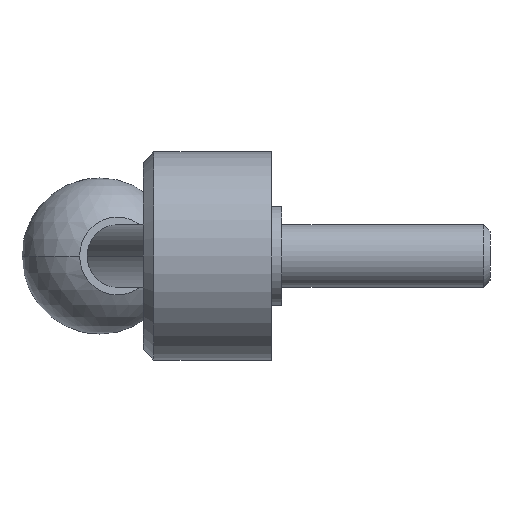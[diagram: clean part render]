
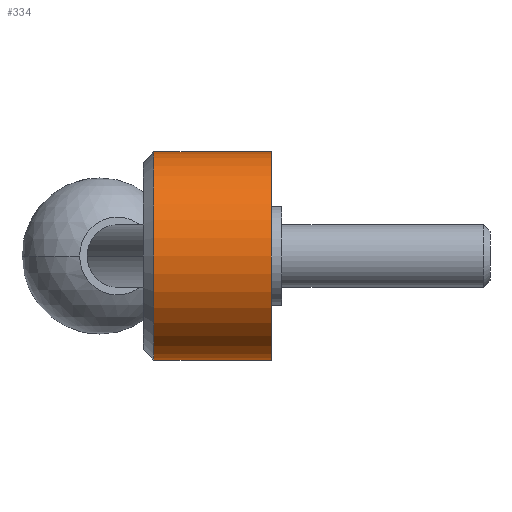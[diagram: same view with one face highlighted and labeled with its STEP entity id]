
A CAD part, left-side view. The second image highlights one B-rep face of the part: STEP entity #334.
In plain terms, the highlighted cylindrical face has radius 20 mm (diameter 40 mm), a partial arc.
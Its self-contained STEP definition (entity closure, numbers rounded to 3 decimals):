
#28 = DIRECTION ( 'NONE',  ( 0., -1., 0. ) ) ;
#94 = EDGE_LOOP ( 'NONE', ( #522, #509, #419, #823 ) ) ;
#99 = LINE ( 'NONE', #369, #339 ) ;
#147 = DIRECTION ( 'NONE',  ( 0., -1., 0. ) ) ;
#154 = CARTESIAN_POINT ( 'NONE',  ( 0., 0., 20. ) ) ;
#160 = CARTESIAN_POINT ( 'NONE',  ( 0., 0., -20. ) ) ;
#181 = DIRECTION ( 'NONE',  ( 0., 0., -1. ) ) ;
#228 = DIRECTION ( 'NONE',  ( 0., -1., 0. ) ) ;
#233 = CARTESIAN_POINT ( 'NONE',  ( 0., 0., 0. ) ) ;
#251 = EDGE_CURVE ( 'NONE', #675, #604, #848, .T. ) ;
#290 = CARTESIAN_POINT ( 'NONE',  ( 0., 22.6, 20. ) ) ;
#317 = VERTEX_POINT ( 'NONE', #843 ) ;
#334 = ADVANCED_FACE ( 'NONE', ( #650 ), #866, .T. ) ;
#339 = VECTOR ( 'NONE', #228, 1000. ) ;
#369 = CARTESIAN_POINT ( 'NONE',  ( 0., 0., -20. ) ) ;
#399 = EDGE_CURVE ( 'NONE', #317, #869, #99, .T. ) ;
#419 = ORIENTED_EDGE ( 'NONE', *, *, #399, .T. ) ;
#435 = CARTESIAN_POINT ( 'NONE',  ( 0., 22.6, 0. ) ) ;
#509 = ORIENTED_EDGE ( 'NONE', *, *, #881, .T. ) ;
#521 = DIRECTION ( 'NONE',  ( 0., -1., 0. ) ) ;
#522 = ORIENTED_EDGE ( 'NONE', *, *, #251, .F. ) ;
#565 = DIRECTION ( 'NONE',  ( 0., 0., 1. ) ) ;
#571 = AXIS2_PLACEMENT_3D ( 'NONE', #435, #703, #565 ) ;
#588 = CIRCLE ( 'NONE', #698, 20. ) ;
#604 = VERTEX_POINT ( 'NONE', #885 ) ;
#650 = FACE_OUTER_BOUND ( 'NONE', #94, .T. ) ;
#656 = EDGE_CURVE ( 'NONE', #604, #869, #588, .T. ) ;
#675 = VERTEX_POINT ( 'NONE', #290 ) ;
#685 = DIRECTION ( 'NONE',  ( 0., 0., -1. ) ) ;
#697 = AXIS2_PLACEMENT_3D ( 'NONE', #725, #521, #181 ) ;
#698 = AXIS2_PLACEMENT_3D ( 'NONE', #233, #147, #685 ) ;
#703 = DIRECTION ( 'NONE',  ( 0., -1., 0. ) ) ;
#725 = CARTESIAN_POINT ( 'NONE',  ( 0., 0., 0. ) ) ;
#783 = CIRCLE ( 'NONE', #571, 20. ) ;
#823 = ORIENTED_EDGE ( 'NONE', *, *, #656, .F. ) ;
#843 = CARTESIAN_POINT ( 'NONE',  ( 0., 22.6, -20. ) ) ;
#848 = LINE ( 'NONE', #154, #862 ) ;
#862 = VECTOR ( 'NONE', #28, 1000. ) ;
#866 = CYLINDRICAL_SURFACE ( 'NONE', #697, 20. ) ;
#869 = VERTEX_POINT ( 'NONE', #160 ) ;
#881 = EDGE_CURVE ( 'NONE', #675, #317, #783, .T. ) ;
#885 = CARTESIAN_POINT ( 'NONE',  ( 0., 0., 20. ) ) ;
